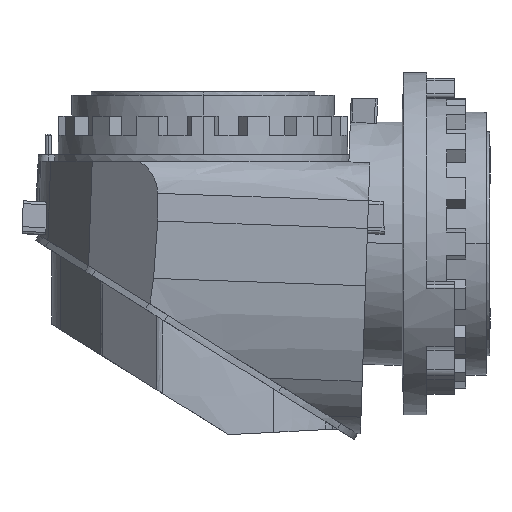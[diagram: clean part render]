
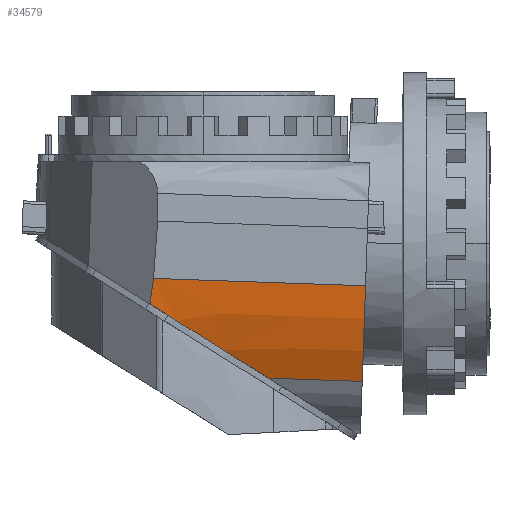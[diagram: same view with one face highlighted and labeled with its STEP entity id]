
A CAD part, front view. The second image highlights one B-rep face of the part: STEP entity #34579.
In plain terms, the highlighted free-form (B-spline) face has degree [3, 3] with [4, 4] control points.
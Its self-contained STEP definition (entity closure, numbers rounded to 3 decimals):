
#13416 = CARTESIAN_POINT ( 'NONE',  ( -39.922, -341.787, -117.169 ) ) ;
#15282 = CARTESIAN_POINT ( 'NONE',  ( -75.232, -349.787, -52.709 ) ) ;
#15469 = CARTESIAN_POINT ( 'NONE',  ( 99.429, -312.56, -204.245 ) ) ;
#15470 = CARTESIAN_POINT ( 'NONE',  ( 87.978, -315.961, -197.089 ) ) ;
#15471 = CARTESIAN_POINT ( 'NONE',  ( 76.479, -319.102, -189.904 ) ) ;
#15472 = CARTESIAN_POINT ( 'NONE',  ( 53.394, -324.897, -175.479 ) ) ;
#15473 = CARTESIAN_POINT ( 'NONE',  ( 41.808, -327.552, -168.239 ) ) ;
#15474 = CARTESIAN_POINT ( 'NONE',  ( 6.923, -334.822, -146.441 ) ) ;
#15475 = CARTESIAN_POINT ( 'NONE',  ( -16.447, -338.736, -131.837 ) ) ;
#15476 = CARTESIAN_POINT ( 'NONE',  ( -39.922, -341.787, -117.169 ) ) ;
#15477 = CARTESIAN_POINT ( 'NONE',  ( 99.429, -312.56, -204.245 ) ) ;
#15478 = B_SPLINE_CURVE_WITH_KNOTS ( 'NONE', 3,
 ( #15476, #15475, #15474, #15473, #15472, #15471, #15470, #15469 ),
 .UNSPECIFIED., .F., .F.,
 ( 4, 2, 2, 4 ),
 ( 0., 0.084, 0.125, 0.167 ),
 .UNSPECIFIED. ) ;
#15522 = CARTESIAN_POINT ( 'NONE',  ( -80.516, -346.197, -91.803 ) ) ;
#15523 = CARTESIAN_POINT ( 'NONE',  ( -77.968, -348.12, -78.944 ) ) ;
#15524 = CARTESIAN_POINT ( 'NONE',  ( -76.197, -349.325, -65.915 ) ) ;
#15525 = CARTESIAN_POINT ( 'NONE',  ( -75.232, -349.787, -52.709 ) ) ;
#15526 = B_SPLINE_CURVE_WITH_KNOTS ( 'NONE', 3,
 ( #15525, #15524, #15523, #15522 ),
 .UNSPECIFIED., .F., .F.,
 ( 4, 4 ),
 ( 0., 0.04 ),
 .UNSPECIFIED. ) ;
#15527 = CARTESIAN_POINT ( 'NONE',  ( -80.516, -346.197, -91.803 ) ) ;
#15532 = CARTESIAN_POINT ( 'NONE',  ( -39.922, -341.787, -117.169 ) ) ;
#15533 = CARTESIAN_POINT ( 'NONE',  ( -53.431, -343.543, -108.727 ) ) ;
#15534 = CARTESIAN_POINT ( 'NONE',  ( -66.963, -345.01, -100.272 ) ) ;
#15535 = CARTESIAN_POINT ( 'NONE',  ( -80.516, -346.197, -91.803 ) ) ;
#15536 = B_SPLINE_CURVE_WITH_KNOTS ( 'NONE', 3,
 ( #15535, #15534, #15533, #15532 ),
 .UNSPECIFIED., .F., .F.,
 ( 4, 4 ),
 ( 0., 0.048 ),
 .UNSPECIFIED. ) ;
#16938 = CARTESIAN_POINT ( 'NONE',  ( 246.894, -349.787, -63.958 ) ) ;
#16939 = DIRECTION ( 'NONE',  ( -0.999, 0., 0.035 ) ) ;
#16940 = VECTOR ( 'NONE', #16939, 1000. ) ;
#16941 = CARTESIAN_POINT ( 'NONE',  ( 82.895, -349.787, -58.231 ) ) ;
#16942 = LINE ( 'NONE', #16941, #16940 ) ;
#17257 = DIRECTION ( 'NONE',  ( -0.999, 0., 0.035 ) ) ;
#17258 = VECTOR ( 'NONE', #17257, 1000. ) ;
#17259 = CARTESIAN_POINT ( 'NONE',  ( 170.198, -312.56, -206.716 ) ) ;
#17260 = LINE ( 'NONE', #17259, #17258 ) ;
#17292 = FACE_OUTER_BOUND ( 'NONE', #34580, .T. ) ;
#17311 =( BOUNDED_SURFACE ( )  B_SPLINE_SURFACE ( 3, 3, ( 
 ( #17314, #17313, #17312, #17332 ),
 ( #17331, #17330, #17329, #17328 ),
 ( #17327, #17326, #17325, #17324 ),
 ( #17323, #17322, #17321, #17320 ) ),
 .UNSPECIFIED., .F., .F., .T. ) 
 B_SPLINE_SURFACE_WITH_KNOTS ( ( 4, 4 ),
 ( 4, 4 ),
 ( 0., 1. ),
 ( 0., 1. ),
 .UNSPECIFIED. ) 
 GEOMETRIC_REPRESENTATION_ITEM ( )  RATIONAL_B_SPLINE_SURFACE ( (
 ( 1., 1., 1., 1.),
 ( 0.985, 0.985, 0.985, 0.985),
 ( 0.985, 0.985, 0.985, 0.985),
 ( 1., 1., 1., 1.) ) ) 
 REPRESENTATION_ITEM ( '' )  SURFACE ( )  );
#17312 = CARTESIAN_POINT ( 'NONE',  ( 137.561, -349.787, -60.14 ) ) ;
#17313 = CARTESIAN_POINT ( 'NONE',  ( 28.229, -349.787, -56.322 ) ) ;
#17314 = CARTESIAN_POINT ( 'NONE',  ( -81.103, -349.787, -52.504 ) ) ;
#17315 = CARTESIAN_POINT ( 'NONE',  ( 246.894, -349.787, -63.958 ) ) ;
#17320 = CARTESIAN_POINT ( 'NONE',  ( 241.821, -312.56, -209.218 ) ) ;
#17321 = CARTESIAN_POINT ( 'NONE',  ( 132.489, -312.56, -205.4 ) ) ;
#17322 = CARTESIAN_POINT ( 'NONE',  ( 23.157, -312.56, -201.582 ) ) ;
#17323 = CARTESIAN_POINT ( 'NONE',  ( -86.175, -312.56, -197.764 ) ) ;
#17324 = CARTESIAN_POINT ( 'NONE',  ( 243.404, -335.411, -163.878 ) ) ;
#17325 = CARTESIAN_POINT ( 'NONE',  ( 134.072, -335.411, -160.06 ) ) ;
#17326 = CARTESIAN_POINT ( 'NONE',  ( 24.74, -335.411, -156.242 ) ) ;
#17327 = CARTESIAN_POINT ( 'NONE',  ( -84.592, -335.411, -152.424 ) ) ;
#17328 = CARTESIAN_POINT ( 'NONE',  ( 245.122, -348.015, -114.697 ) ) ;
#17329 = CARTESIAN_POINT ( 'NONE',  ( 135.79, -348.015, -110.879 ) ) ;
#17330 = CARTESIAN_POINT ( 'NONE',  ( 26.457, -348.015, -107.061 ) ) ;
#17331 = CARTESIAN_POINT ( 'NONE',  ( -82.875, -348.015, -103.243 ) ) ;
#17332 = CARTESIAN_POINT ( 'NONE',  ( 246.894, -349.787, -63.958 ) ) ;
#17333 = CARTESIAN_POINT ( 'NONE',  ( 241.821, -312.56, -209.218 ) ) ;
#17334 =( BOUNDED_CURVE ( )  B_SPLINE_CURVE ( 3, ( #17315, #17359, #17358, #17357 ),
 .UNSPECIFIED., .F., .T. ) 
 B_SPLINE_CURVE_WITH_KNOTS ( ( 4, 4 ),
 ( 0., 0.151 ),
 .UNSPECIFIED. ) 
 CURVE ( )  GEOMETRIC_REPRESENTATION_ITEM ( )  RATIONAL_B_SPLINE_CURVE ( ( 1., 0.985, 0.985, 1. ) ) 
 REPRESENTATION_ITEM ( '' )  );
#17357 = CARTESIAN_POINT ( 'NONE',  ( 241.821, -312.56, -209.218 ) ) ;
#17358 = CARTESIAN_POINT ( 'NONE',  ( 243.404, -335.411, -163.878 ) ) ;
#17359 = CARTESIAN_POINT ( 'NONE',  ( 245.122, -348.015, -114.697 ) ) ;
#33667 = VERTEX_POINT ( 'NONE', #13416 ) ;
#34134 = VERTEX_POINT ( 'NONE', #15282 ) ;
#34192 = EDGE_CURVE ( 'NONE', #33667, #34193, #15478, .T. ) ;
#34193 = VERTEX_POINT ( 'NONE', #15477 ) ;
#34202 = EDGE_CURVE ( 'NONE', #34214, #33667, #15536, .T. ) ;
#34214 = VERTEX_POINT ( 'NONE', #15527 ) ;
#34216 = EDGE_CURVE ( 'NONE', #34134, #34214, #15526, .T. ) ;
#34514 = EDGE_CURVE ( 'NONE', #34515, #34134, #16942, .T. ) ;
#34515 = VERTEX_POINT ( 'NONE', #16938 ) ;
#34562 = ORIENTED_EDGE ( 'NONE', *, *, #34192, .T. ) ;
#34563 = ORIENTED_EDGE ( 'NONE', *, *, #34564, .F. ) ;
#34564 = EDGE_CURVE ( 'NONE', #34583, #34193, #17260, .T. ) ;
#34579 = ADVANCED_FACE ( 'NONE', ( #17292 ), #17311, .T. ) ;
#34580 = EDGE_LOOP ( 'NONE', ( #34581, #34584, #34585, #34586, #34562, #34563 ) ) ;
#34581 = ORIENTED_EDGE ( 'NONE', *, *, #34582, .F. ) ;
#34582 = EDGE_CURVE ( 'NONE', #34515, #34583, #17334, .T. ) ;
#34583 = VERTEX_POINT ( 'NONE', #17333 ) ;
#34584 = ORIENTED_EDGE ( 'NONE', *, *, #34514, .T. ) ;
#34585 = ORIENTED_EDGE ( 'NONE', *, *, #34216, .T. ) ;
#34586 = ORIENTED_EDGE ( 'NONE', *, *, #34202, .T. ) ;
